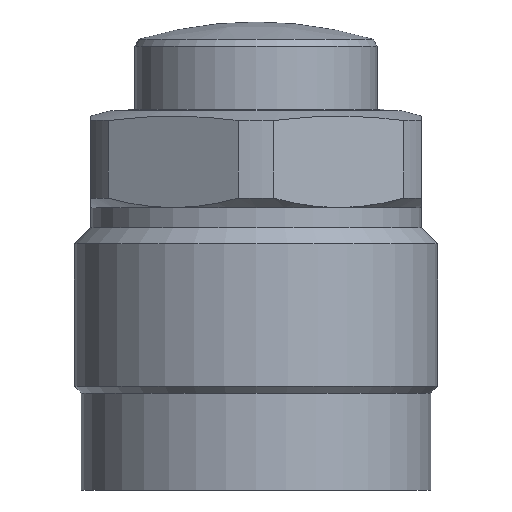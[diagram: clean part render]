
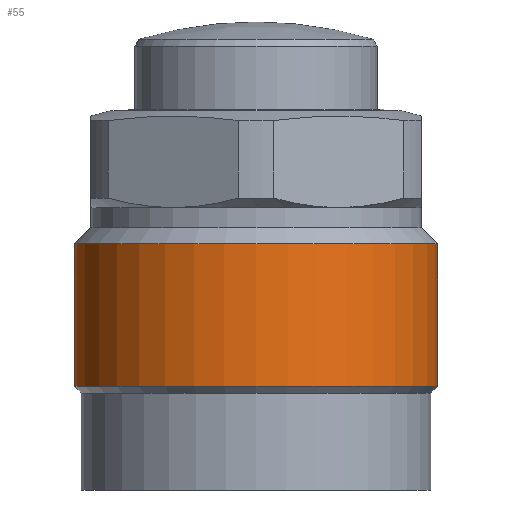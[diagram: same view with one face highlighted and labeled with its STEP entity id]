
A CAD part, front view. The second image highlights one B-rep face of the part: STEP entity #55.
In plain terms, the highlighted cylindrical face has radius 22.5 mm (diameter 45 mm), a partial arc.
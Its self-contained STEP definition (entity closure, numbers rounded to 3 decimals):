
#29 = EDGE_CURVE ( 'NONE', #684, #689, #841, .T. ) ;
#30 = EDGE_CURVE ( 'NONE', #687, #682, #846, .T. ) ;
#55 = ADVANCED_FACE ( 'NONE', ( #1198 ), #1201, .T. ) ;
#303 = CARTESIAN_POINT ( 'NONE',  ( 0., 0., -34.15 ) ) ;
#304 = DIRECTION ( 'NONE',  ( 0., 0., 1. ) ) ;
#305 = DIRECTION ( 'NONE',  ( 1., 0., 0. ) ) ;
#306 = CARTESIAN_POINT ( 'NONE',  ( 0., 0., -16.5 ) ) ;
#307 = DIRECTION ( 'NONE',  ( 0., 0., 1. ) ) ;
#308 = DIRECTION ( 'NONE',  ( 1., 0., 0. ) ) ;
#601 = EDGE_LOOP ( 'NONE', ( #1634, #1633, #1632, #1631 ) ) ;
#682 = VERTEX_POINT ( 'NONE', #973 ) ;
#684 = VERTEX_POINT ( 'NONE', #986 ) ;
#687 = VERTEX_POINT ( 'NONE', #983 ) ;
#689 = VERTEX_POINT ( 'NONE', #984 ) ;
#839 = CARTESIAN_POINT ( 'NONE',  ( -22.5, 0., 5.219 ) ) ;
#841 = LINE ( 'NONE', #839, #2067 ) ;
#845 = DIRECTION ( 'NONE',  ( 0., 0., 1. ) ) ;
#846 = LINE ( 'NONE', #1111, #2070 ) ;
#973 = CARTESIAN_POINT ( 'NONE',  ( 22.5, 0., -16.5 ) ) ;
#983 = CARTESIAN_POINT ( 'NONE',  ( 22.5, 0., -34.15 ) ) ;
#984 = CARTESIAN_POINT ( 'NONE',  ( -22.5, 0., -16.5 ) ) ;
#986 = CARTESIAN_POINT ( 'NONE',  ( -22.5, 0., -34.15 ) ) ;
#1111 = CARTESIAN_POINT ( 'NONE',  ( 22.5, 0., 5.219 ) ) ;
#1112 = DIRECTION ( 'NONE',  ( 0., 0., 1. ) ) ;
#1196 = DIRECTION ( 'NONE',  ( 0., 0., 1. ) ) ;
#1198 = FACE_OUTER_BOUND ( 'NONE', #601, .T. ) ;
#1199 = CARTESIAN_POINT ( 'NONE',  ( 0., 0., 5.219 ) ) ;
#1201 = CYLINDRICAL_SURFACE ( 'NONE', #2103, 22.5 ) ;
#1202 = DIRECTION ( 'NONE',  ( 1., 0., 0. ) ) ;
#1478 = CIRCLE ( 'NONE', #1481, 22.5 ) ;
#1480 = CIRCLE ( 'NONE', #1483, 22.5 ) ;
#1481 = AXIS2_PLACEMENT_3D ( 'NONE', #303, #304, #305 ) ;
#1483 = AXIS2_PLACEMENT_3D ( 'NONE', #306, #307, #308 ) ;
#1631 = ORIENTED_EDGE ( 'NONE', *, *, #1928, .F. ) ;
#1632 = ORIENTED_EDGE ( 'NONE', *, *, #30, .T. ) ;
#1633 = ORIENTED_EDGE ( 'NONE', *, *, #1927, .T. ) ;
#1634 = ORIENTED_EDGE ( 'NONE', *, *, #29, .F. ) ;
#1927 = EDGE_CURVE ( 'NONE', #684, #687, #1478, .T. ) ;
#1928 = EDGE_CURVE ( 'NONE', #689, #682, #1480, .T. ) ;
#2067 = VECTOR ( 'NONE', #845, 1000. ) ;
#2070 = VECTOR ( 'NONE', #1112, 1000. ) ;
#2103 = AXIS2_PLACEMENT_3D ( 'NONE', #1199, #1196, #1202 ) ;
